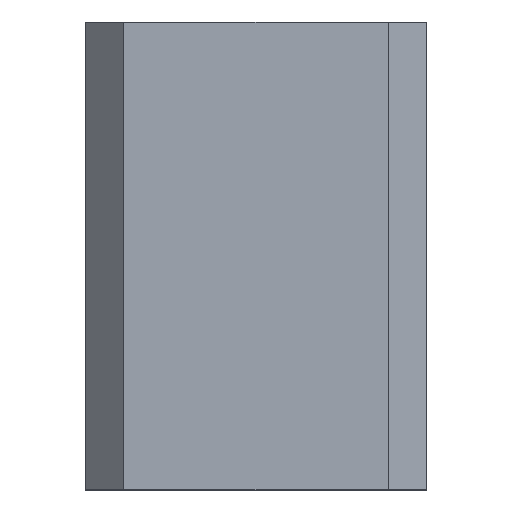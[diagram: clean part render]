
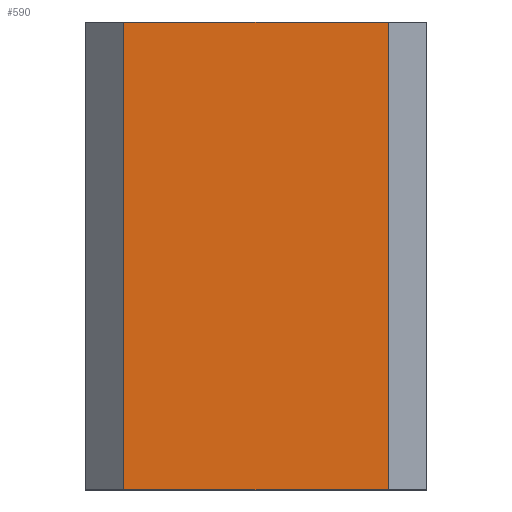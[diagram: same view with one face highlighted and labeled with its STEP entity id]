
A CAD part, top view. The second image highlights one B-rep face of the part: STEP entity #590.
In plain terms, the highlighted planar face has unit normal (0, 0, 1).
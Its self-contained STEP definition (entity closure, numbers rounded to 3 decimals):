
#70 = PLANE('',#71);
#71 = AXIS2_PLACEMENT_3D('',#72,#73,#74);
#72 = CARTESIAN_POINT('',(-2.6,0.4,0.));
#73 = DIRECTION('',(-0.,1.,0.));
#74 = DIRECTION('',(0.,0.,1.));
#126 = PLANE('',#127);
#127 = AXIS2_PLACEMENT_3D('',#128,#129,#130);
#128 = CARTESIAN_POINT('',(-2.6,14.4,0.));
#129 = DIRECTION('',(-0.,1.,0.));
#130 = DIRECTION('',(0.,0.,1.));
#152 = PLANE('',#153);
#153 = AXIS2_PLACEMENT_3D('',#154,#155,#156);
#154 = CARTESIAN_POINT('',(-2.028,0.4,4.628));
#155 = DIRECTION('',(0.707,0.,-0.707));
#156 = DIRECTION('',(0.,1.,0.));
#220 = VERTEX_POINT('',#221);
#221 = CARTESIAN_POINT('',(-1.456,0.4,5.2));
#242 = EDGE_CURVE('',#220,#243,#245,.T.);
#243 = VERTEX_POINT('',#244);
#244 = CARTESIAN_POINT('',(6.456,0.4,5.2));
#245 = SURFACE_CURVE('',#246,(#250,#257),.PCURVE_S1.);
#246 = LINE('',#247,#248);
#247 = CARTESIAN_POINT('',(-2.6,0.4,5.2));
#248 = VECTOR('',#249,1.);
#249 = DIRECTION('',(1.,0.,-0.));
#250 = PCURVE('',#70,#251);
#251 = DEFINITIONAL_REPRESENTATION('',(#252),#256);
#252 = LINE('',#253,#254);
#253 = CARTESIAN_POINT('',(5.2,0.));
#254 = VECTOR('',#255,1.);
#255 = DIRECTION('',(0.,1.));
#256 = ( GEOMETRIC_REPRESENTATION_CONTEXT(2) 
PARAMETRIC_REPRESENTATION_CONTEXT() REPRESENTATION_CONTEXT('2D SPACE',''
  ) );
#257 = PCURVE('',#258,#263);
#258 = PLANE('',#259);
#259 = AXIS2_PLACEMENT_3D('',#260,#261,#262);
#260 = CARTESIAN_POINT('',(-2.6,0.4,5.2));
#261 = DIRECTION('',(0.,0.,1.));
#262 = DIRECTION('',(1.,0.,-0.));
#263 = DEFINITIONAL_REPRESENTATION('',(#264),#268);
#264 = LINE('',#265,#266);
#265 = CARTESIAN_POINT('',(0.,0.));
#266 = VECTOR('',#267,1.);
#267 = DIRECTION('',(1.,0.));
#268 = ( GEOMETRIC_REPRESENTATION_CONTEXT(2) 
PARAMETRIC_REPRESENTATION_CONTEXT() REPRESENTATION_CONTEXT('2D SPACE',''
  ) );
#284 = PLANE('',#285);
#285 = AXIS2_PLACEMENT_3D('',#286,#287,#288);
#286 = CARTESIAN_POINT('',(7.028,0.4,4.628));
#287 = DIRECTION('',(0.707,0.,0.707));
#288 = DIRECTION('',(-0.,1.,0.));
#302 = VERTEX_POINT('',#303);
#303 = CARTESIAN_POINT('',(-1.456,14.4,5.2));
#324 = EDGE_CURVE('',#220,#302,#325,.T.);
#325 = SURFACE_CURVE('',#326,(#330,#337),.PCURVE_S1.);
#326 = LINE('',#327,#328);
#327 = CARTESIAN_POINT('',(-1.456,0.4,5.2));
#328 = VECTOR('',#329,1.);
#329 = DIRECTION('',(-0.,1.,0.));
#330 = PCURVE('',#152,#331);
#331 = DEFINITIONAL_REPRESENTATION('',(#332),#336);
#332 = LINE('',#333,#334);
#333 = CARTESIAN_POINT('',(0.,0.809));
#334 = VECTOR('',#335,1.);
#335 = DIRECTION('',(1.,0.));
#336 = ( GEOMETRIC_REPRESENTATION_CONTEXT(2) 
PARAMETRIC_REPRESENTATION_CONTEXT() REPRESENTATION_CONTEXT('2D SPACE',''
  ) );
#337 = PCURVE('',#258,#338);
#338 = DEFINITIONAL_REPRESENTATION('',(#339),#343);
#339 = LINE('',#340,#341);
#340 = CARTESIAN_POINT('',(1.144,0.));
#341 = VECTOR('',#342,1.);
#342 = DIRECTION('',(0.,1.));
#343 = ( GEOMETRIC_REPRESENTATION_CONTEXT(2) 
PARAMETRIC_REPRESENTATION_CONTEXT() REPRESENTATION_CONTEXT('2D SPACE',''
  ) );
#423 = EDGE_CURVE('',#302,#424,#426,.T.);
#424 = VERTEX_POINT('',#425);
#425 = CARTESIAN_POINT('',(6.456,14.4,5.2));
#426 = SURFACE_CURVE('',#427,(#431,#438),.PCURVE_S1.);
#427 = LINE('',#428,#429);
#428 = CARTESIAN_POINT('',(-2.6,14.4,5.2));
#429 = VECTOR('',#430,1.);
#430 = DIRECTION('',(1.,0.,-0.));
#431 = PCURVE('',#126,#432);
#432 = DEFINITIONAL_REPRESENTATION('',(#433),#437);
#433 = LINE('',#434,#435);
#434 = CARTESIAN_POINT('',(5.2,0.));
#435 = VECTOR('',#436,1.);
#436 = DIRECTION('',(0.,1.));
#437 = ( GEOMETRIC_REPRESENTATION_CONTEXT(2) 
PARAMETRIC_REPRESENTATION_CONTEXT() REPRESENTATION_CONTEXT('2D SPACE',''
  ) );
#438 = PCURVE('',#258,#439);
#439 = DEFINITIONAL_REPRESENTATION('',(#440),#444);
#440 = LINE('',#441,#442);
#441 = CARTESIAN_POINT('',(0.,14.));
#442 = VECTOR('',#443,1.);
#443 = DIRECTION('',(1.,0.));
#444 = ( GEOMETRIC_REPRESENTATION_CONTEXT(2) 
PARAMETRIC_REPRESENTATION_CONTEXT() REPRESENTATION_CONTEXT('2D SPACE',''
  ) );
#570 = EDGE_CURVE('',#243,#424,#571,.T.);
#571 = SURFACE_CURVE('',#572,(#576,#583),.PCURVE_S1.);
#572 = LINE('',#573,#574);
#573 = CARTESIAN_POINT('',(6.456,0.4,5.2));
#574 = VECTOR('',#575,1.);
#575 = DIRECTION('',(-0.,1.,0.));
#576 = PCURVE('',#284,#577);
#577 = DEFINITIONAL_REPRESENTATION('',(#578),#582);
#578 = LINE('',#579,#580);
#579 = CARTESIAN_POINT('',(0.,0.809));
#580 = VECTOR('',#581,1.);
#581 = DIRECTION('',(1.,0.));
#582 = ( GEOMETRIC_REPRESENTATION_CONTEXT(2) 
PARAMETRIC_REPRESENTATION_CONTEXT() REPRESENTATION_CONTEXT('2D SPACE',''
  ) );
#583 = PCURVE('',#258,#584);
#584 = DEFINITIONAL_REPRESENTATION('',(#585),#589);
#585 = LINE('',#586,#587);
#586 = CARTESIAN_POINT('',(9.056,0.));
#587 = VECTOR('',#588,1.);
#588 = DIRECTION('',(0.,1.));
#589 = ( GEOMETRIC_REPRESENTATION_CONTEXT(2) 
PARAMETRIC_REPRESENTATION_CONTEXT() REPRESENTATION_CONTEXT('2D SPACE',''
  ) );
#590 = ADVANCED_FACE('',(#591),#258,.T.);
#591 = FACE_BOUND('',#592,.T.);
#592 = EDGE_LOOP('',(#593,#594,#595,#596));
#593 = ORIENTED_EDGE('',*,*,#423,.F.);
#594 = ORIENTED_EDGE('',*,*,#324,.F.);
#595 = ORIENTED_EDGE('',*,*,#242,.T.);
#596 = ORIENTED_EDGE('',*,*,#570,.T.);
